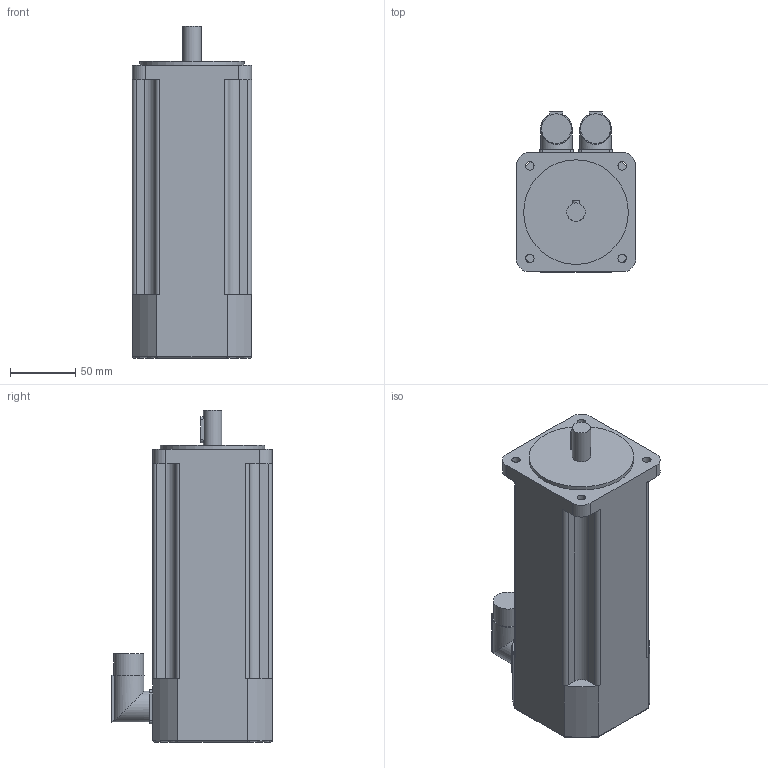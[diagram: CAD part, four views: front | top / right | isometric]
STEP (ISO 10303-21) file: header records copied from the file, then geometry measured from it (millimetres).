
FILE_DESCRIPTION(/* description */ (''),/* implementation_level */ '2;1');
FILE_NAME(/* name */ '\\Lafnas01\disegni\Archivi Lafert\3D\CAD 3D\MODELLI\Assiemi clienti\Serad\Modelli 3D Serad\B56Q\Encoder\Enc With Brake\B56H5Qxx6BRx2033.ipt.stp',/* time_stamp */ '2015-09-07T10:50:11+02:00',/* author */ ('Pastrello Ylenia'),/* organization */ (''),/* preprocessor_version */ 'ST-DEVELOPER v15.6',/* originating_system */ 'Autodesk Inventor 2015',/* authorisation */ '');
FILE_SCHEMA (('AUTOMOTIVE_DESIGN { 1 0 10303 214 3 1 1 }'));
Length unit declared in the file: millimetre
Products named in the file (1): B56H5Qxx6BRx2033
Bounding box: 91.3 x 122.8 x 254 mm (x, y, z)
Volume: 1714204.7 mm3; surface area: 105037.2 mm2
Topology: 1 solids, 1 shells, 99 faces, 260 edges, 170 vertices
Faces by surface type: plane 49, cylinder 46, torus 4
Full cylindrical faces by diameter (mm): 6.5 x4, 14 x1, 22.7 x2, 24 x2, 80 x1
Entity records: 3176 total; most frequent: CARTESIAN_POINT 658, DIRECTION 534, ORIENTED_EDGE 500, EDGE_CURVE 250, AXIS2_PLACEMENT_3D 194, VERTEX_POINT 170, LINE 146, VECTOR 146
